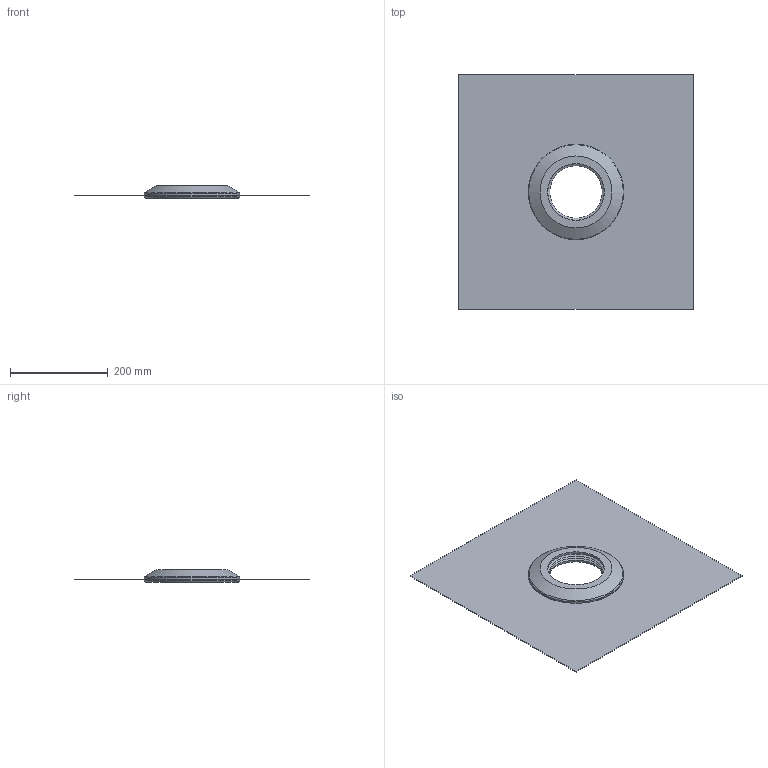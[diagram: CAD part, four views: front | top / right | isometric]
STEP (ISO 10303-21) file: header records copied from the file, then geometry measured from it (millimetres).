
FILE_DESCRIPTION(/* description */ (''),/* implementation_level */ '2;1');
FILE_NAME(/* name */ 'H:\Geberit-Teile\Export\367.674.00.1\stp\367674.stp',/* time_stamp */ '2016-06-20T09:48:40+02:00',/* author */ ('seihe2'),/* organization */ (''),/* preprocessor_version */ 'ST-DEVELOPER v15.2',/* originating_system */ 'Autodesk Inventor 2014',/* authorisation */ '');
FILE_SCHEMA (('AUTOMOTIVE_DESIGN { 1 0 10303 214 3 1 1 }'));
Length unit declared in the file: millimetre
Products named in the file (1): 367674
Bounding box: 480 x 480 x 25 mm (x, y, z)
Volume: 635354.7 mm3; surface area: 554229.7 mm2
Topology: 3 solids, 3 shells, 47 faces, 79 edges, 50 vertices
Faces by surface type: plane 22, cylinder 16, cone 7, torus 2
Full cylindrical faces by diameter (mm): 116 x2, 121.5 x2, 121.7 x2, 125.3 x2, 125.5 x2, 129.5 x1, 129.7 x1, 139.8 x1, 140 x1, 195 x2
Entity records: 1074 total; most frequent: DIRECTION 192, CARTESIAN_POINT 152, ORIENTED_EDGE 108, EDGE_LOOP 90, AXIS2_PLACEMENT_3D 90, FACE_BOUND 54, EDGE_CURVE 54, VERTEX_POINT 50
